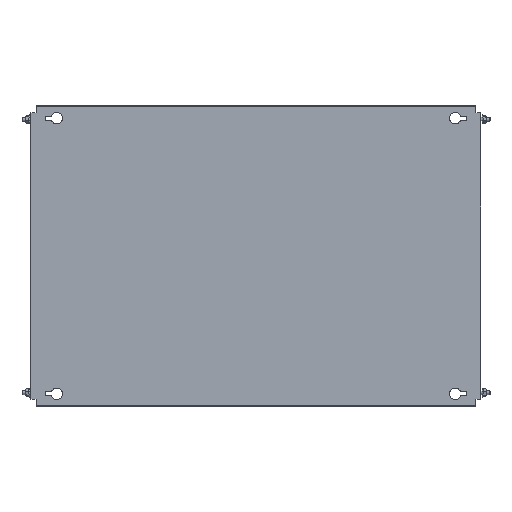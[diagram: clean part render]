
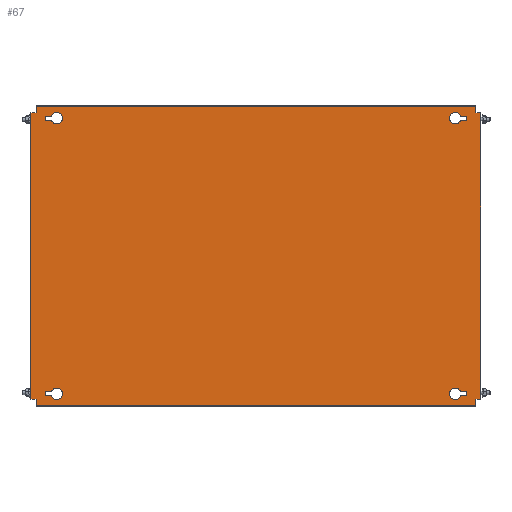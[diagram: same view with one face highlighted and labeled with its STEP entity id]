
A CAD part, top view. The second image highlights one B-rep face of the part: STEP entity #67.
In plain terms, the highlighted planar face has unit normal (0, 0, 1).
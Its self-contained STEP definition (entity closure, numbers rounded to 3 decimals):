
#67 = ADVANCED_FACE('',(#68,#103,#138,#300,#335),#370,.T.);
#68 = FACE_BOUND('',#69,.T.);
#69 = EDGE_LOOP('',(#70,#80,#88,#96));
#70 = ORIENTED_EDGE('',*,*,#71,.T.);
#71 = EDGE_CURVE('',#72,#74,#76,.T.);
#72 = VERTEX_POINT('',#73);
#73 = CARTESIAN_POINT('',(318.393,217.75,2.));
#74 = VERTEX_POINT('',#75);
#75 = CARTESIAN_POINT('',(328.,217.75,2.));
#76 = LINE('',#77,#78);
#77 = CARTESIAN_POINT('',(327.,217.75,2.));
#78 = VECTOR('',#79,1.);
#79 = DIRECTION('',(1.,0.,0.));
#80 = ORIENTED_EDGE('',*,*,#81,.T.);
#81 = EDGE_CURVE('',#74,#82,#84,.T.);
#82 = VERTEX_POINT('',#83);
#83 = CARTESIAN_POINT('',(328.,211.25,2.));
#84 = LINE('',#85,#86);
#85 = CARTESIAN_POINT('',(328.,217.75,2.));
#86 = VECTOR('',#87,1.);
#87 = DIRECTION('',(0.,-1.,0.));
#88 = ORIENTED_EDGE('',*,*,#89,.T.);
#89 = EDGE_CURVE('',#82,#90,#92,.T.);
#90 = VERTEX_POINT('',#91);
#91 = CARTESIAN_POINT('',(318.393,211.25,2.));
#92 = LINE('',#93,#94);
#93 = CARTESIAN_POINT('',(327.,211.25,2.));
#94 = VECTOR('',#95,1.);
#95 = DIRECTION('',(-1.,0.,0.));
#96 = ORIENTED_EDGE('',*,*,#97,.T.);
#97 = EDGE_CURVE('',#90,#72,#98,.T.);
#98 = CIRCLE('',#99,9.);
#99 = AXIS2_PLACEMENT_3D('',#100,#101,#102);
#100 = CARTESIAN_POINT('',(310.,214.5,2.));
#101 = DIRECTION('',(0.,0.,-1.));
#102 = DIRECTION('',(1.,0.,0.));
#103 = FACE_BOUND('',#104,.T.);
#104 = EDGE_LOOP('',(#105,#115,#123,#131));
#105 = ORIENTED_EDGE('',*,*,#106,.T.);
#106 = EDGE_CURVE('',#107,#109,#111,.T.);
#107 = VERTEX_POINT('',#108);
#108 = CARTESIAN_POINT('',(-318.393,-217.75,2.));
#109 = VERTEX_POINT('',#110);
#110 = CARTESIAN_POINT('',(-328.,-217.75,2.));
#111 = LINE('',#112,#113);
#112 = CARTESIAN_POINT('',(-327.,-217.75,2.));
#113 = VECTOR('',#114,1.);
#114 = DIRECTION('',(-1.,0.,0.));
#115 = ORIENTED_EDGE('',*,*,#116,.T.);
#116 = EDGE_CURVE('',#109,#117,#119,.T.);
#117 = VERTEX_POINT('',#118);
#118 = CARTESIAN_POINT('',(-328.,-211.25,2.));
#119 = LINE('',#120,#121);
#120 = CARTESIAN_POINT('',(-328.,-217.75,2.));
#121 = VECTOR('',#122,1.);
#122 = DIRECTION('',(0.,1.,0.));
#123 = ORIENTED_EDGE('',*,*,#124,.T.);
#124 = EDGE_CURVE('',#117,#125,#127,.T.);
#125 = VERTEX_POINT('',#126);
#126 = CARTESIAN_POINT('',(-318.393,-211.25,2.));
#127 = LINE('',#128,#129);
#128 = CARTESIAN_POINT('',(-327.,-211.25,2.));
#129 = VECTOR('',#130,1.);
#130 = DIRECTION('',(1.,-0.,-0.));
#131 = ORIENTED_EDGE('',*,*,#132,.T.);
#132 = EDGE_CURVE('',#125,#107,#133,.T.);
#133 = CIRCLE('',#134,9.);
#134 = AXIS2_PLACEMENT_3D('',#135,#136,#137);
#135 = CARTESIAN_POINT('',(-310.,-214.5,2.));
#136 = DIRECTION('',(0.,0.,-1.));
#137 = DIRECTION('',(-1.,0.,0.));
#138 = FACE_BOUND('',#139,.T.);
#139 = EDGE_LOOP('',(#140,#150,#158,#166,#174,#182,#190,#198,#206,#214,
    #222,#230,#238,#246,#254,#262,#270,#278,#286,#294));
#140 = ORIENTED_EDGE('',*,*,#141,.F.);
#141 = EDGE_CURVE('',#142,#144,#146,.T.);
#142 = VERTEX_POINT('',#143);
#143 = CARTESIAN_POINT('',(-347.4,222.5,2.));
#144 = VERTEX_POINT('',#145);
#145 = CARTESIAN_POINT('',(-342.,222.5,2.));
#146 = LINE('',#147,#148);
#147 = CARTESIAN_POINT('',(-348.,222.5,2.));
#148 = VECTOR('',#149,1.);
#149 = DIRECTION('',(1.,0.,-0.));
#150 = ORIENTED_EDGE('',*,*,#151,.T.);
#151 = EDGE_CURVE('',#142,#152,#154,.T.);
#152 = VERTEX_POINT('',#153);
#153 = CARTESIAN_POINT('',(-350.,222.5,2.));
#154 = LINE('',#155,#156);
#155 = CARTESIAN_POINT('',(-347.4,222.5,2.));
#156 = VECTOR('',#157,1.);
#157 = DIRECTION('',(-1.,0.,0.));
#158 = ORIENTED_EDGE('',*,*,#159,.F.);
#159 = EDGE_CURVE('',#160,#152,#162,.T.);
#160 = VERTEX_POINT('',#161);
#161 = CARTESIAN_POINT('',(-350.,-222.5,2.));
#162 = LINE('',#163,#164);
#163 = CARTESIAN_POINT('',(-350.,-232.5,2.));
#164 = VECTOR('',#165,1.);
#165 = DIRECTION('',(0.,1.,-0.));
#166 = ORIENTED_EDGE('',*,*,#167,.F.);
#167 = EDGE_CURVE('',#168,#160,#170,.T.);
#168 = VERTEX_POINT('',#169);
#169 = CARTESIAN_POINT('',(-347.4,-222.5,2.));
#170 = LINE('',#171,#172);
#171 = CARTESIAN_POINT('',(-342.,-222.5,2.));
#172 = VECTOR('',#173,1.);
#173 = DIRECTION('',(-1.,-0.,-0.));
#174 = ORIENTED_EDGE('',*,*,#175,.T.);
#175 = EDGE_CURVE('',#168,#176,#178,.T.);
#176 = VERTEX_POINT('',#177);
#177 = CARTESIAN_POINT('',(-342.,-222.5,2.));
#178 = LINE('',#179,#180);
#179 = CARTESIAN_POINT('',(-348.,-222.5,2.));
#180 = VECTOR('',#181,1.);
#181 = DIRECTION('',(1.,0.,-0.));
#182 = ORIENTED_EDGE('',*,*,#183,.T.);
#183 = EDGE_CURVE('',#176,#184,#186,.T.);
#184 = VERTEX_POINT('',#185);
#185 = CARTESIAN_POINT('',(-342.,-231.9,2.));
#186 = LINE('',#187,#188);
#187 = CARTESIAN_POINT('',(-342.,232.5,2.));
#188 = VECTOR('',#189,1.);
#189 = DIRECTION('',(0.,-1.,0.));
#190 = ORIENTED_EDGE('',*,*,#191,.T.);
#191 = EDGE_CURVE('',#184,#192,#194,.T.);
#192 = VERTEX_POINT('',#193);
#193 = CARTESIAN_POINT('',(-342.,-232.5,2.));
#194 = LINE('',#195,#196);
#195 = CARTESIAN_POINT('',(-342.,-231.9,2.));
#196 = VECTOR('',#197,1.);
#197 = DIRECTION('',(-0.,-1.,-0.));
#198 = ORIENTED_EDGE('',*,*,#199,.T.);
#199 = EDGE_CURVE('',#192,#200,#202,.T.);
#200 = VERTEX_POINT('',#201);
#201 = CARTESIAN_POINT('',(342.,-232.5,2.));
#202 = LINE('',#203,#204);
#203 = CARTESIAN_POINT('',(342.,-232.5,2.));
#204 = VECTOR('',#205,1.);
#205 = DIRECTION('',(1.,0.,0.));
#206 = ORIENTED_EDGE('',*,*,#207,.F.);
#207 = EDGE_CURVE('',#208,#200,#210,.T.);
#208 = VERTEX_POINT('',#209);
#209 = CARTESIAN_POINT('',(342.,-231.9,2.));
#210 = LINE('',#211,#212);
#211 = CARTESIAN_POINT('',(342.,-232.5,2.));
#212 = VECTOR('',#213,1.);
#213 = DIRECTION('',(0.,-1.,0.));
#214 = ORIENTED_EDGE('',*,*,#215,.T.);
#215 = EDGE_CURVE('',#208,#216,#218,.T.);
#216 = VERTEX_POINT('',#217);
#217 = CARTESIAN_POINT('',(342.,-222.5,2.));
#218 = LINE('',#219,#220);
#219 = CARTESIAN_POINT('',(342.,232.5,2.));
#220 = VECTOR('',#221,1.);
#221 = DIRECTION('',(0.,1.,-0.));
#222 = ORIENTED_EDGE('',*,*,#223,.F.);
#223 = EDGE_CURVE('',#224,#216,#226,.T.);
#224 = VERTEX_POINT('',#225);
#225 = CARTESIAN_POINT('',(347.4,-222.5,2.));
#226 = LINE('',#227,#228);
#227 = CARTESIAN_POINT('',(348.,-222.5,2.));
#228 = VECTOR('',#229,1.);
#229 = DIRECTION('',(-1.,0.,-0.));
#230 = ORIENTED_EDGE('',*,*,#231,.T.);
#231 = EDGE_CURVE('',#224,#232,#234,.T.);
#232 = VERTEX_POINT('',#233);
#233 = CARTESIAN_POINT('',(350.,-222.5,2.));
#234 = LINE('',#235,#236);
#235 = CARTESIAN_POINT('',(347.4,-222.5,2.));
#236 = VECTOR('',#237,1.);
#237 = DIRECTION('',(1.,-0.,0.));
#238 = ORIENTED_EDGE('',*,*,#239,.F.);
#239 = EDGE_CURVE('',#240,#232,#242,.T.);
#240 = VERTEX_POINT('',#241);
#241 = CARTESIAN_POINT('',(350.,222.5,2.));
#242 = LINE('',#243,#244);
#243 = CARTESIAN_POINT('',(350.,-232.5,2.));
#244 = VECTOR('',#245,1.);
#245 = DIRECTION('',(0.,-1.,-0.));
#246 = ORIENTED_EDGE('',*,*,#247,.F.);
#247 = EDGE_CURVE('',#248,#240,#250,.T.);
#248 = VERTEX_POINT('',#249);
#249 = CARTESIAN_POINT('',(347.4,222.5,2.));
#250 = LINE('',#251,#252);
#251 = CARTESIAN_POINT('',(-342.,222.5,2.));
#252 = VECTOR('',#253,1.);
#253 = DIRECTION('',(1.,-0.,0.));
#254 = ORIENTED_EDGE('',*,*,#255,.T.);
#255 = EDGE_CURVE('',#248,#256,#258,.T.);
#256 = VERTEX_POINT('',#257);
#257 = CARTESIAN_POINT('',(342.,222.5,2.));
#258 = LINE('',#259,#260);
#259 = CARTESIAN_POINT('',(348.,222.5,2.));
#260 = VECTOR('',#261,1.);
#261 = DIRECTION('',(-1.,0.,-0.));
#262 = ORIENTED_EDGE('',*,*,#263,.T.);
#263 = EDGE_CURVE('',#256,#264,#266,.T.);
#264 = VERTEX_POINT('',#265);
#265 = CARTESIAN_POINT('',(342.,231.9,2.));
#266 = LINE('',#267,#268);
#267 = CARTESIAN_POINT('',(342.,232.5,2.));
#268 = VECTOR('',#269,1.);
#269 = DIRECTION('',(0.,1.,-0.));
#270 = ORIENTED_EDGE('',*,*,#271,.T.);
#271 = EDGE_CURVE('',#264,#272,#274,.T.);
#272 = VERTEX_POINT('',#273);
#273 = CARTESIAN_POINT('',(342.,232.5,2.));
#274 = LINE('',#275,#276);
#275 = CARTESIAN_POINT('',(342.,231.9,2.));
#276 = VECTOR('',#277,1.);
#277 = DIRECTION('',(-0.,1.,-0.));
#278 = ORIENTED_EDGE('',*,*,#279,.T.);
#279 = EDGE_CURVE('',#272,#280,#282,.T.);
#280 = VERTEX_POINT('',#281);
#281 = CARTESIAN_POINT('',(-342.,232.5,2.));
#282 = LINE('',#283,#284);
#283 = CARTESIAN_POINT('',(-342.,232.5,2.));
#284 = VECTOR('',#285,1.);
#285 = DIRECTION('',(-1.,0.,0.));
#286 = ORIENTED_EDGE('',*,*,#287,.F.);
#287 = EDGE_CURVE('',#288,#280,#290,.T.);
#288 = VERTEX_POINT('',#289);
#289 = CARTESIAN_POINT('',(-342.,231.9,2.));
#290 = LINE('',#291,#292);
#291 = CARTESIAN_POINT('',(-342.,-232.5,2.));
#292 = VECTOR('',#293,1.);
#293 = DIRECTION('',(0.,1.,-0.));
#294 = ORIENTED_EDGE('',*,*,#295,.T.);
#295 = EDGE_CURVE('',#288,#144,#296,.T.);
#296 = LINE('',#297,#298);
#297 = CARTESIAN_POINT('',(-342.,232.5,2.));
#298 = VECTOR('',#299,1.);
#299 = DIRECTION('',(0.,-1.,0.));
#300 = FACE_BOUND('',#301,.T.);
#301 = EDGE_LOOP('',(#302,#312,#320,#328));
#302 = ORIENTED_EDGE('',*,*,#303,.F.);
#303 = EDGE_CURVE('',#304,#306,#308,.T.);
#304 = VERTEX_POINT('',#305);
#305 = CARTESIAN_POINT('',(328.,-211.25,2.));
#306 = VERTEX_POINT('',#307);
#307 = CARTESIAN_POINT('',(318.393,-211.25,2.));
#308 = LINE('',#309,#310);
#309 = CARTESIAN_POINT('',(318.393,-211.25,2.));
#310 = VECTOR('',#311,1.);
#311 = DIRECTION('',(-1.,0.,0.));
#312 = ORIENTED_EDGE('',*,*,#313,.F.);
#313 = EDGE_CURVE('',#314,#304,#316,.T.);
#314 = VERTEX_POINT('',#315);
#315 = CARTESIAN_POINT('',(328.,-217.75,2.));
#316 = LINE('',#317,#318);
#317 = CARTESIAN_POINT('',(328.,-211.25,2.));
#318 = VECTOR('',#319,1.);
#319 = DIRECTION('',(0.,1.,0.));
#320 = ORIENTED_EDGE('',*,*,#321,.F.);
#321 = EDGE_CURVE('',#322,#314,#324,.T.);
#322 = VERTEX_POINT('',#323);
#323 = CARTESIAN_POINT('',(318.393,-217.75,2.));
#324 = LINE('',#325,#326);
#325 = CARTESIAN_POINT('',(327.,-217.75,2.));
#326 = VECTOR('',#327,1.);
#327 = DIRECTION('',(1.,0.,0.));
#328 = ORIENTED_EDGE('',*,*,#329,.F.);
#329 = EDGE_CURVE('',#306,#322,#330,.T.);
#330 = CIRCLE('',#331,9.);
#331 = AXIS2_PLACEMENT_3D('',#332,#333,#334);
#332 = CARTESIAN_POINT('',(310.,-214.5,2.));
#333 = DIRECTION('',(0.,-0.,1.));
#334 = DIRECTION('',(1.,0.,0.));
#335 = FACE_BOUND('',#336,.T.);
#336 = EDGE_LOOP('',(#337,#347,#355,#363));
#337 = ORIENTED_EDGE('',*,*,#338,.F.);
#338 = EDGE_CURVE('',#339,#341,#343,.T.);
#339 = VERTEX_POINT('',#340);
#340 = CARTESIAN_POINT('',(-328.,211.25,2.));
#341 = VERTEX_POINT('',#342);
#342 = CARTESIAN_POINT('',(-318.393,211.25,2.));
#343 = LINE('',#344,#345);
#344 = CARTESIAN_POINT('',(-318.393,211.25,2.));
#345 = VECTOR('',#346,1.);
#346 = DIRECTION('',(1.,0.,0.));
#347 = ORIENTED_EDGE('',*,*,#348,.F.);
#348 = EDGE_CURVE('',#349,#339,#351,.T.);
#349 = VERTEX_POINT('',#350);
#350 = CARTESIAN_POINT('',(-328.,217.75,2.));
#351 = LINE('',#352,#353);
#352 = CARTESIAN_POINT('',(-328.,211.25,2.));
#353 = VECTOR('',#354,1.);
#354 = DIRECTION('',(0.,-1.,0.));
#355 = ORIENTED_EDGE('',*,*,#356,.F.);
#356 = EDGE_CURVE('',#357,#349,#359,.T.);
#357 = VERTEX_POINT('',#358);
#358 = CARTESIAN_POINT('',(-318.393,217.75,2.));
#359 = LINE('',#360,#361);
#360 = CARTESIAN_POINT('',(-327.,217.75,2.));
#361 = VECTOR('',#362,1.);
#362 = DIRECTION('',(-1.,0.,0.));
#363 = ORIENTED_EDGE('',*,*,#364,.F.);
#364 = EDGE_CURVE('',#341,#357,#365,.T.);
#365 = CIRCLE('',#366,9.);
#366 = AXIS2_PLACEMENT_3D('',#367,#368,#369);
#367 = CARTESIAN_POINT('',(-310.,214.5,2.));
#368 = DIRECTION('',(0.,-0.,1.));
#369 = DIRECTION('',(-1.,0.,0.));
#370 = PLANE('',#371);
#371 = AXIS2_PLACEMENT_3D('',#372,#373,#374);
#372 = CARTESIAN_POINT('',(-342.,-232.5,2.));
#373 = DIRECTION('',(-0.,0.,1.));
#374 = DIRECTION('',(1.,0.,0.));
